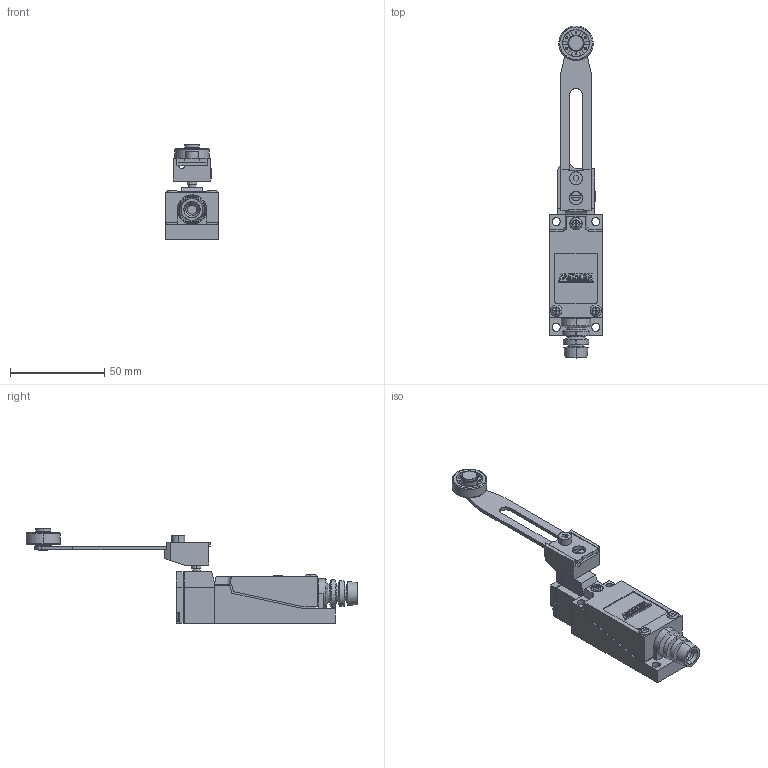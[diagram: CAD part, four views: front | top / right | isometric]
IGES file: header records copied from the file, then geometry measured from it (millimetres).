
Start section: SolidWorks IGES file using analytic representation for surfaces
Global section: file name: D:\X - Arquivos\PROEX\Empresas\P11 - METALTEX\01 - Produtos\IGES\4ª remessa\1ª etapa\FM8108.IGS; native system: SolidWorks 2012; preprocessor: SolidWorks 2012; author: Usuario; date: 180612.132607; units: millimetre
Bounding box: 28 x 175.84 x 50.3 mm (x, y, z)
Surface area: 19143.6 mm2 (no closed solid volume)
Topology: 0 solids, 0 shells, 527 faces, 5209 edges, 5209 vertices
Faces by surface type: bspline 410, revolution 117
